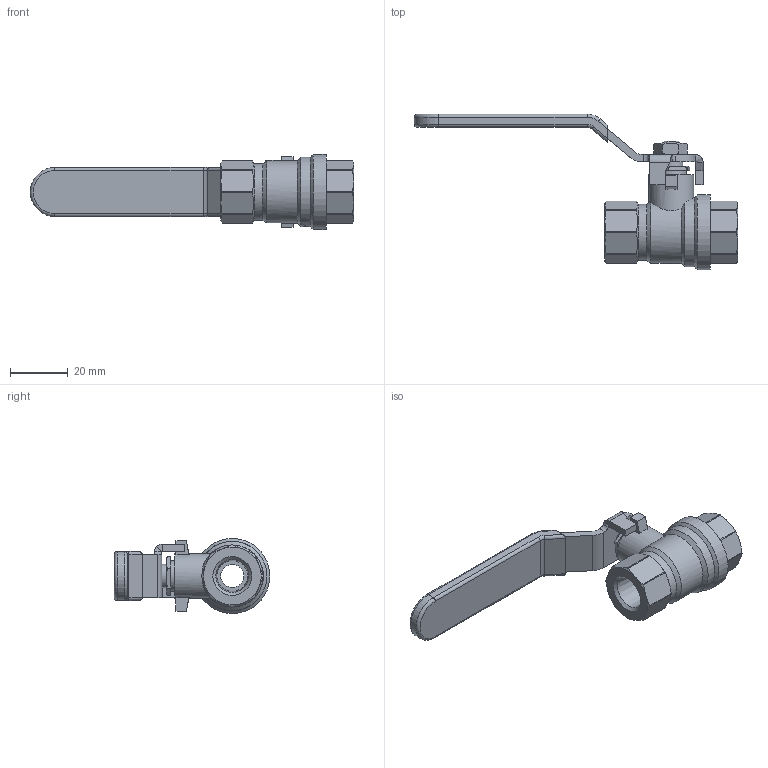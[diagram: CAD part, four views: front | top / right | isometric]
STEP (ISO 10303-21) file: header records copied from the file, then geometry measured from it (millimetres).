
FILE_DESCRIPTION((''),'2;1');
FILE_NAME('P:\Fastrack\53972_CRANE 3D\Fig100YL\100YL-14\100YL-14.stp','2011-01-27T16:01:14',('btaylor'),(''),'Autodesk Inventor 2008','Autodesk Inventor 2008','');
FILE_SCHEMA(('AUTOMOTIVE_DESIGN { 1 0 10303 214 1 1 1 1 }'));
Length unit declared in the file: millimetre
Products named in the file (1): 100YL-14
Bounding box: 112 x 53.91 x 26 mm (x, y, z)
Volume: 23099.9 mm3; surface area: 18968.3 mm2
Topology: 6 solids, 6 shells, 1529 faces, 4041 edges, 2677 vertices
Faces by surface type: plane 819, bspline 536, cylinder 97, cone 62, torus 12, sphere 3
Full cylindrical faces by diameter (mm): 8 x3, 8.1 x2, 8.3 x1, 9 x1, 9.5 x1, 10 x3, 10.5 x1, 10.6 x1, 10.75 x1, 15.2 x2, 15.5 x1, 16 x4, 18.5 x1, 19.5 x1, 20 x1, 20.2 x1, 24 x1, 26 x1
Entity records: 105867 total; most frequent: CARTESIAN_POINT 70415, ORIENTED_EDGE 7902, DIRECTION 5035, EDGE_CURVE 3951, VERTEX_POINT 2646, VECTOR 2473, LINE 2473, EDGE_LOOP 1763
